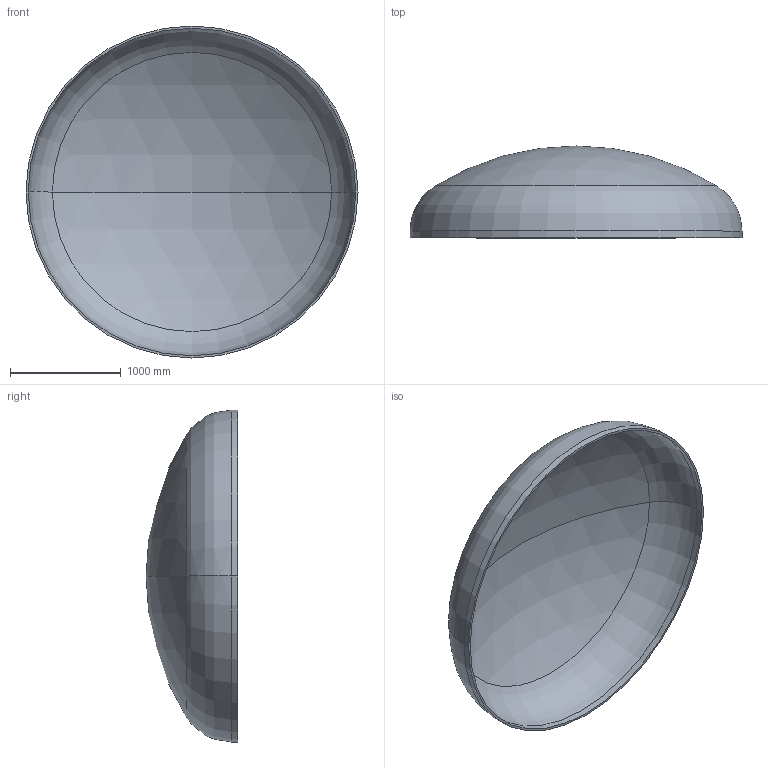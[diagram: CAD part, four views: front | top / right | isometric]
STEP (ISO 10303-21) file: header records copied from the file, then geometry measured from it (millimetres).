
FILE_DESCRIPTION (( 'STEP AP203' ), '1' );
FILE_NAME ('DIN 28013 Korbbogenform_-_Boden DIN 28013 - 3000 x 60 - I - s=20.step', '2016-07-01T17:34:12', ( '' ), ( '' ), 'SwSTEP 2.0', 'SolidWorks 2013', '' );
FILE_SCHEMA (( 'CONFIG_CONTROL_DESIGN' ));
Length unit declared in the file: millimetre
Products named in the file (1): DIN 28013 Korbbogenform_-_Boden DIN 28013 - 3000 x 60 - I - s=20
Bounding box: 3000 x 829.79 x 3000 mm (x, y, z)
Volume: 205152801.7 mm3; surface area: 20703348.9 mm2
Topology: 1 solids, 1 shells, 13 faces, 24 edges, 14 vertices
Faces by surface type: torus 4, cylinder 4, sphere 4, plane 1
Entity records: 407 total; most frequent: DIRECTION 72, CARTESIAN_POINT 52, ORIENTED_EDGE 48, AXIS2_PLACEMENT_3D 34, EDGE_CURVE 24, CIRCLE 20, EDGE_LOOP 14, VERTEX_POINT 14
